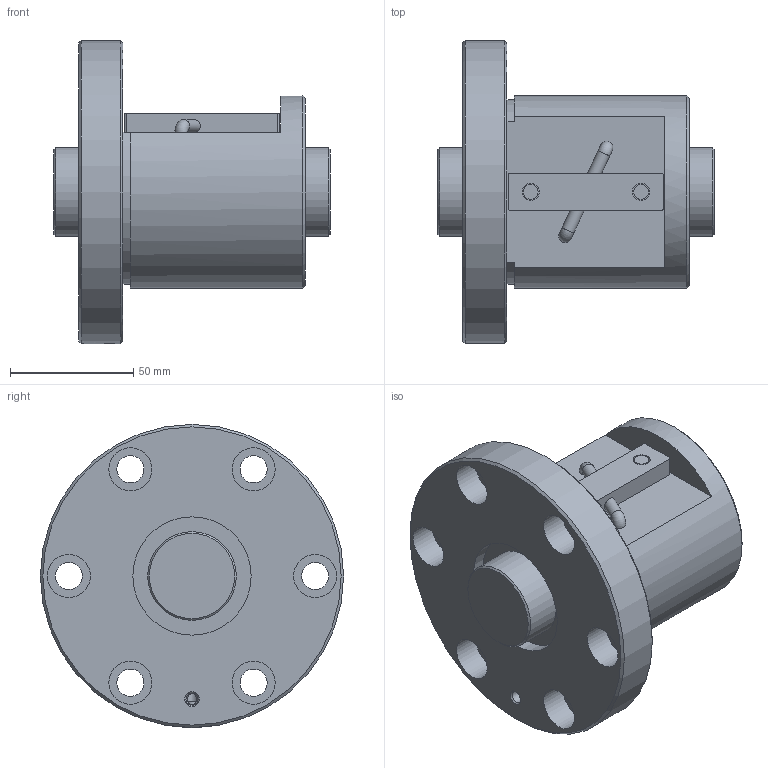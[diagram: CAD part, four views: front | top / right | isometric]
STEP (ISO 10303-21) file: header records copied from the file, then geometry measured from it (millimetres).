
FILE_DESCRIPTION(/* description */ ('STEP AP203'),/* implementation_level */ '2;1');
FILE_NAME(/* name */ 'BNF3616V-2.5RRG1+112LC0_000_rev',/* time_stamp */ '2024-08-06T08:40:32+02:00',/* author */ ('License CC BY-ND 4.0'),/* organization */ ('CADENAS'),/* preprocessor_version */ 'ST-DEVELOPER v19.3',/* originating_system */ 'PARTsolutions',/* authorisation */ ' ');
FILE_SCHEMA (('CONFIG_CONTROL_DESIGN'));
Length unit declared in the file: millimetre
Products named in the file (3): BNF3616V-2.5RRG1+112LC0_000_rev; BNF 3616-2.5RR000 Shaft; BNF 3616-2.5RR Nut
Assembly tree (2 placements, depth 2):
  BNF3616V-2.5RRG1+112LC0_000_rev
    BNF 3616-2.5RR000 Shaft
    BNF 3616-2.5RR Nut
Bounding box: 112 x 123 x 123 mm (x, y, z)
Volume: 524691.4 mm3; surface area: 79247.6 mm2
Topology: 2 solids, 2 shells, 69 faces, 148 edges, 96 vertices
Faces by surface type: cylinder 33, plane 27, cone 7, torus 2
Full cylindrical faces by diameter (mm): 4.5 x2, 4.917 x1, 5.198 x2, 6 x2, 7 x2, 11 x6, 17.5 x6, 36 x2, 48 x2, 78 x1, 123 x1
Entity records: 1755 total; most frequent: DIRECTION 312, CARTESIAN_POINT 296, ORIENTED_EDGE 200, AXIS2_PLACEMENT_3D 144, EDGE_LOOP 140, FACE_BOUND 140, EDGE_CURVE 100, VERTEX_POINT 86
